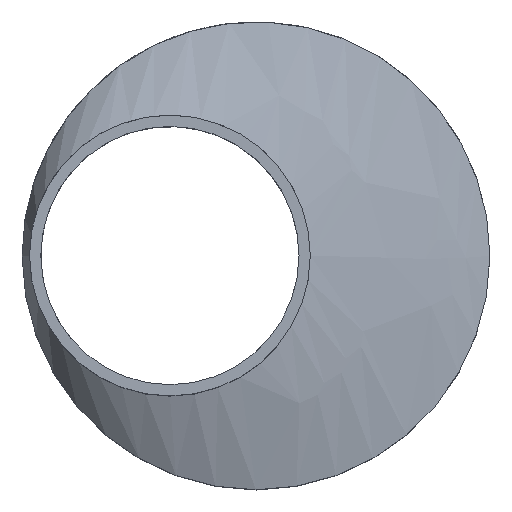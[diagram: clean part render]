
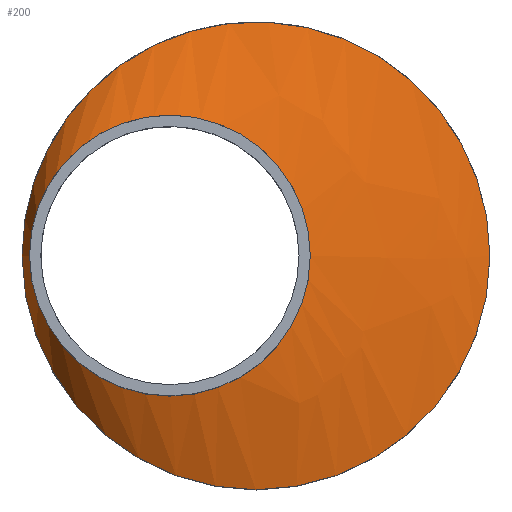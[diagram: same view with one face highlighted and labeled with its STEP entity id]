
A CAD part, top view. The second image highlights one B-rep face of the part: STEP entity #200.
In plain terms, the highlighted free-form (B-spline) face has degree [1, 2] with [2, 9] control points.
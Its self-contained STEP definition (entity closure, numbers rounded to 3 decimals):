
#15=B_SPLINE_CURVE_WITH_KNOTS($,1,(#381,#382),.UNSPECIFIED.,.F.,.F.,(2,
2),(-0.455,0.),.UNSPECIFIED.);
#17=(
BOUNDED_SURFACE()
B_SPLINE_SURFACE(1,2,((#359,#360,#361,#362,#363,#364,#365,#366,#367),(#368,
#369,#370,#371,#372,#373,#374,#375,#376)),.UNSPECIFIED.,.F.,.T.,.F.)
B_SPLINE_SURFACE_WITH_KNOTS((2,2),(3,2,2,2,3),(-2.789,0.752),
(-3.142,-1.571,0.,1.571,3.142),
 .UNSPECIFIED.)
GEOMETRIC_REPRESENTATION_ITEM()
RATIONAL_B_SPLINE_SURFACE(((1.,0.707,1.,0.707,1.,
0.707,1.,0.707,1.),(1.,0.707,1.,0.707,
1.,0.707,1.,0.707,1.)))
REPRESENTATION_ITEM($)
SURFACE()
);
#47=FACE_OUTER_BOUND($,#67,.T.);
#67=EDGE_LOOP($,(#157,#158,#159,#160,#161,#162));
#83=CIRCLE($,#221,62.5);
#84=CIRCLE($,#222,62.5);
#91=CIRCLE($,#231,37.5);
#92=CIRCLE($,#232,37.5);
#101=VERTEX_POINT($,#321);
#102=VERTEX_POINT($,#322);
#109=VERTEX_POINT($,#377);
#110=VERTEX_POINT($,#378);
#119=EDGE_CURVE($,#101,#102,#83,.T.);
#120=EDGE_CURVE($,#102,#101,#84,.T.);
#128=EDGE_CURVE($,#109,#110,#91,.T.);
#129=EDGE_CURVE($,#110,#109,#92,.T.);
#130=EDGE_CURVE($,#110,#102,#15,.T.);
#157=ORIENTED_EDGE($,*,*,#128,.F.);
#158=ORIENTED_EDGE($,*,*,#129,.F.);
#159=ORIENTED_EDGE($,*,*,#130,.T.);
#160=ORIENTED_EDGE($,*,*,#119,.F.);
#161=ORIENTED_EDGE($,*,*,#120,.F.);
#162=ORIENTED_EDGE($,*,*,#130,.F.);
#200=ADVANCED_FACE($,(#47),#17,.F.);
#221=AXIS2_PLACEMENT_3D($,#323,#266,#267);
#222=AXIS2_PLACEMENT_3D($,#324,#268,#269);
#231=AXIS2_PLACEMENT_3D($,#379,#286,#287);
#232=AXIS2_PLACEMENT_3D($,#380,#288,#289);
#266=DIRECTION('center_axis',(0.,0.,-1.));
#267=DIRECTION('ref_axis',(-1.,0.,0.));
#268=DIRECTION('center_axis',(0.,0.,-1.));
#269=DIRECTION('ref_axis',(-1.,0.,0.));
#286=DIRECTION('center_axis',(0.,0.,1.));
#287=DIRECTION('ref_axis',(-1.,0.,0.));
#288=DIRECTION('center_axis',(0.,0.,1.));
#289=DIRECTION('ref_axis',(-1.,0.,0.));
#321=CARTESIAN_POINT('',(62.5,0.,37.));
#322=CARTESIAN_POINT('',(-44.387,44.,37.));
#323=CARTESIAN_POINT('Origin',(0.,0.,37.));
#324=CARTESIAN_POINT('Origin',(0.,0.,37.));
#359=CARTESIAN_POINT('Ctrl Pts',(-12.253,151.827,-12.011));
#360=CARTESIAN_POINT('Ctrl Pts',(-87.006,151.827,-61.023));
#361=CARTESIAN_POINT('Ctrl Pts',(-87.006,0.,
-61.023));
#362=CARTESIAN_POINT('Ctrl Pts',(-87.006,-151.827,-61.023));
#363=CARTESIAN_POINT('Ctrl Pts',(-12.253,-151.827,-12.011));
#364=CARTESIAN_POINT('Ctrl Pts',(62.5,-151.827,37.));
#365=CARTESIAN_POINT('Ctrl Pts',(62.5,0.,37.));
#366=CARTESIAN_POINT('Ctrl Pts',(62.5,151.827,37.));
#367=CARTESIAN_POINT('Ctrl Pts',(-12.253,151.827,-12.011));
#368=CARTESIAN_POINT('Ctrl Pts',(-53.052,14.926,50.216));
#369=CARTESIAN_POINT('Ctrl Pts',(-60.401,14.926,45.397));
#370=CARTESIAN_POINT('Ctrl Pts',(-60.401,0.,
45.397));
#371=CARTESIAN_POINT('Ctrl Pts',(-60.401,-14.926,45.397));
#372=CARTESIAN_POINT('Ctrl Pts',(-53.052,-14.926,50.216));
#373=CARTESIAN_POINT('Ctrl Pts',(-45.703,-14.926,55.034));
#374=CARTESIAN_POINT('Ctrl Pts',(-45.703,0.,
55.034));
#375=CARTESIAN_POINT('Ctrl Pts',(-45.703,14.926,55.034));
#376=CARTESIAN_POINT('Ctrl Pts',(-53.052,14.926,50.216));
#377=CARTESIAN_POINT('',(14.5,0.,45.));
#378=CARTESIAN_POINT('',(-49.632,26.4,45.));
#379=CARTESIAN_POINT('Origin',(-23.,0.,45.));
#380=CARTESIAN_POINT('Origin',(-23.,0.,45.));
#381=CARTESIAN_POINT('Ctrl Pts',(-49.632,26.4,45.));
#382=CARTESIAN_POINT('Ctrl Pts',(-44.387,44.,37.));
